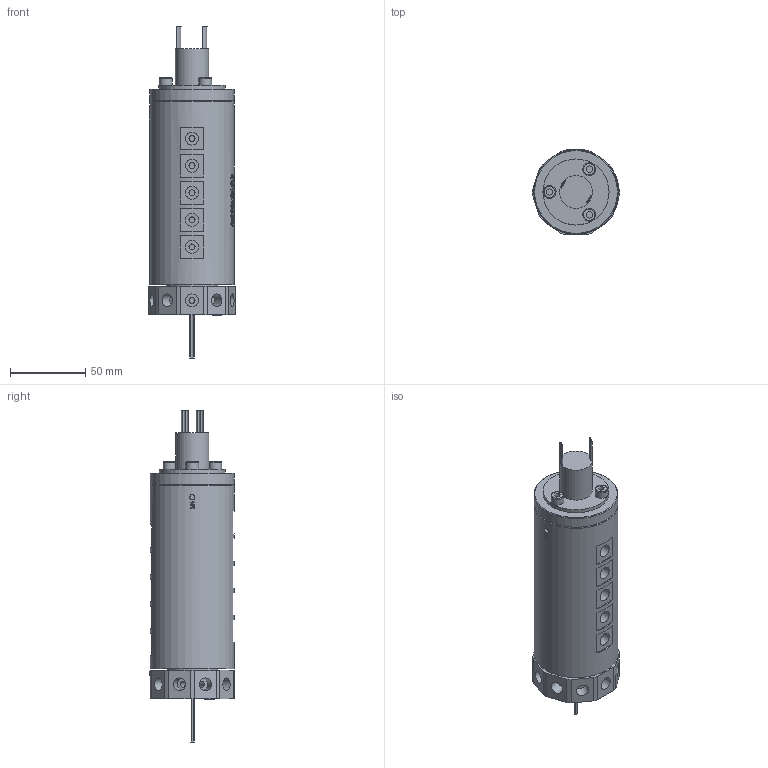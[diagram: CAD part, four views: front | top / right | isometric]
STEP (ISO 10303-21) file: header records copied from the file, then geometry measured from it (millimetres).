
FILE_DESCRIPTION(/* description */ (''),/* implementation_level */ '2;1');
FILE_NAME(/* name */ 'HQ1001-18M.stp',/* time_stamp */ '2025-02-14T12:01:17+08:00',/* author */ (''),/* organization */ (''),/* preprocessor_version */ 'ST-DEVELOPER v16.7',/* originating_system */ 'SIEMENS PLM Software NX 12.0',/* authorisation */ '');
FILE_SCHEMA (('AUTOMOTIVE_DESIGN { 1 0 10303 214 3 1 1 1 }'));
Length unit declared in the file: millimetre
Products named in the file (1): HX0540E8A2D8ngkh
Bounding box: 57.99 x 56.5 x 220.7 mm (x, y, z)
Volume: 361354.7 mm3; surface area: 55252.8 mm2
Topology: 1 solids, 4 shells, 1210 faces, 3149 edges, 2124 vertices
Faces by surface type: plane 541, extrusion 485, cylinder 144, bspline 30, cone 7, torus 3
Full cylindrical faces by diameter (mm): 0.8 x16, 3.4 x6, 4 x30, 4.1 x10, 4.2 x10, 5 x3, 5.5 x3, 7.8 x1, 8 x1, 8.5 x23, 22 x1, 34 x1, 44 x1, 56 x2
Entity records: 42962 total; most frequent: CARTESIAN_POINT 17540, ORIENTED_EDGE 5884, DIRECTION 3372, EDGE_CURVE 2942, B_SPLINE_CURVE_WITH_KNOTS 2351, VERTEX_POINT 2049, EDGE_LOOP 1515, ADVANCED_FACE 1207
